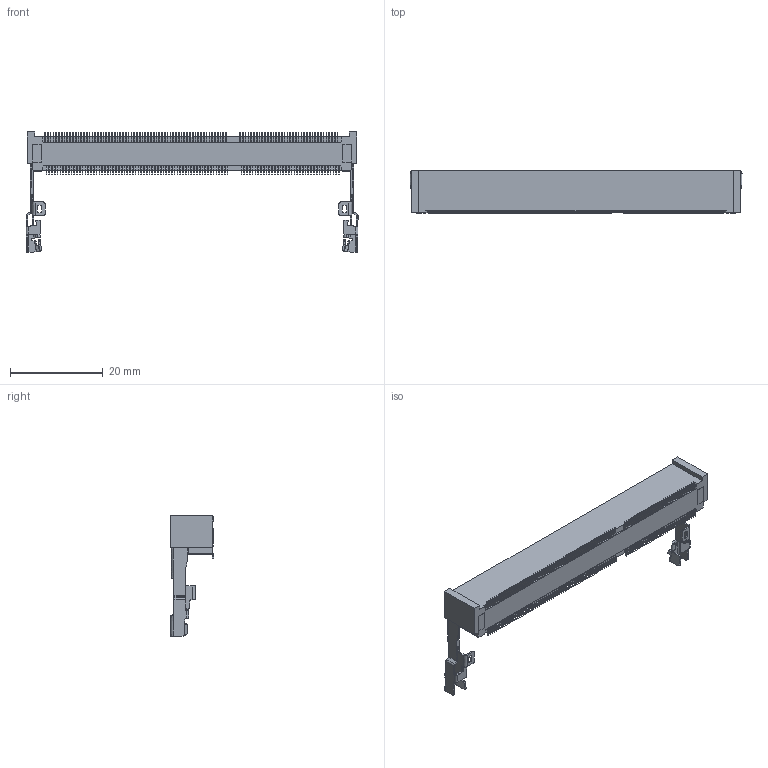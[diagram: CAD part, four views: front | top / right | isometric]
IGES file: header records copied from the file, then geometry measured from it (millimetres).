
Start section: SolidWorks IGES file using NURBS representation for surfaces
Global section: file name: D:\WORK\stayhome\MITX_C1VM11\allin3d\PCI\ram\K3D-MM80-204B1-E1R JAE.IGS; native system: SolidWorks 2017; preprocessor: SolidWorks 2017; author: user; date: 200423.141047; units: millimetre
Bounding box: 71.5 x 9.34 x 25.9 mm (x, y, z)
Surface area: 3624.1 mm2 (no closed solid volume)
Topology: 0 solids, 0 shells, 2279 faces, 12412 edges, 12412 vertices
Faces by surface type: bspline 2279
